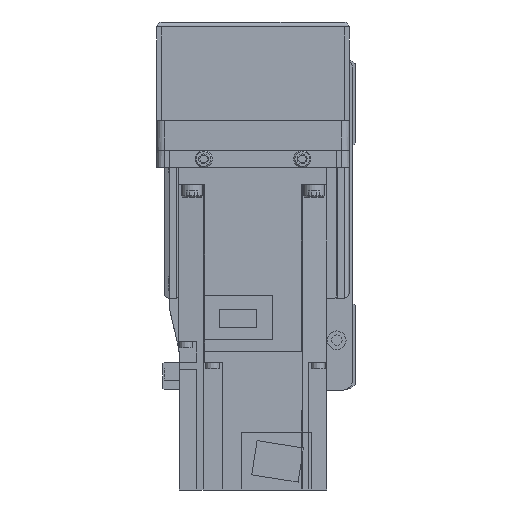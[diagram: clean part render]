
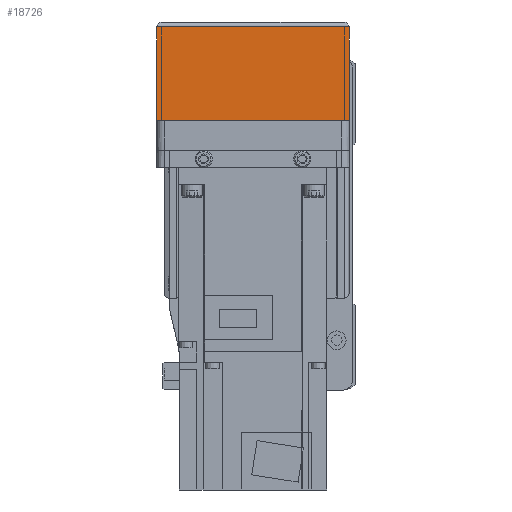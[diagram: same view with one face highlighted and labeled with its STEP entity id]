
A CAD part, left-side view. The second image highlights one B-rep face of the part: STEP entity #18726.
In plain terms, the highlighted planar face has unit normal (-1, 0, 0).
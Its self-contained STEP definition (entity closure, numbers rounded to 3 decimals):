
#2798=ORIENTED_EDGE('',*,*,#7521,.F.);
#2799=ORIENTED_EDGE('',*,*,#7522,.F.);
#2800=ORIENTED_EDGE('',*,*,#7523,.T.);
#2801=ORIENTED_EDGE('',*,*,#7524,.F.);
#7521=EDGE_CURVE('',#9981,#9972,#11914,.T.);
#7522=EDGE_CURVE('',#9998,#9981,#11915,.T.);
#7523=EDGE_CURVE('',#9998,#9999,#11916,.T.);
#7524=EDGE_CURVE('',#9972,#9999,#11917,.T.);
#9972=VERTEX_POINT('',#28736);
#9981=VERTEX_POINT('',#28754);
#9998=VERTEX_POINT('',#28802);
#9999=VERTEX_POINT('',#28804);
#11914=LINE('',#28800,#13567);
#11915=LINE('',#28801,#13568);
#11916=LINE('',#28803,#13569);
#11917=LINE('',#28805,#13570);
#13567=VECTOR('',#23056,1000.);
#13568=VECTOR('',#23057,1000.);
#13569=VECTOR('',#23058,1000.);
#13570=VECTOR('',#23059,1000.);
#15052=EDGE_LOOP('',(#2798,#2799,#2800,#2801));
#16587=FACE_BOUND('',#15052,.T.);
#17963=PLANE('',#20072);
#18726=ADVANCED_FACE('',(#16587),#17963,.F.);
#20072=AXIS2_PLACEMENT_3D('',#28799,#23054,#23055);
#23054=DIRECTION('',(1.,0.,0.));
#23055=DIRECTION('',(0.,0.,-1.));
#23056=DIRECTION('',(0.,-1.,0.));
#23057=DIRECTION('',(0.,0.,1.));
#23058=DIRECTION('',(0.,-1.,0.));
#23059=DIRECTION('',(0.,0.,-1.));
#28736=CARTESIAN_POINT('',(-158.,-39.,-12.1));
#28754=CARTESIAN_POINT('',(-158.,39.,-12.1));
#28799=CARTESIAN_POINT('',(-158.,36.,7.));
#28800=CARTESIAN_POINT('',(-158.,50.,-12.1));
#28801=CARTESIAN_POINT('',(-158.,39.,-50.));
#28802=CARTESIAN_POINT('',(-158.,39.,-50.));
#28803=CARTESIAN_POINT('',(-158.,40.,-50.));
#28804=CARTESIAN_POINT('',(-158.,-39.,-50.));
#28805=CARTESIAN_POINT('',(-158.,-39.,-12.1));
